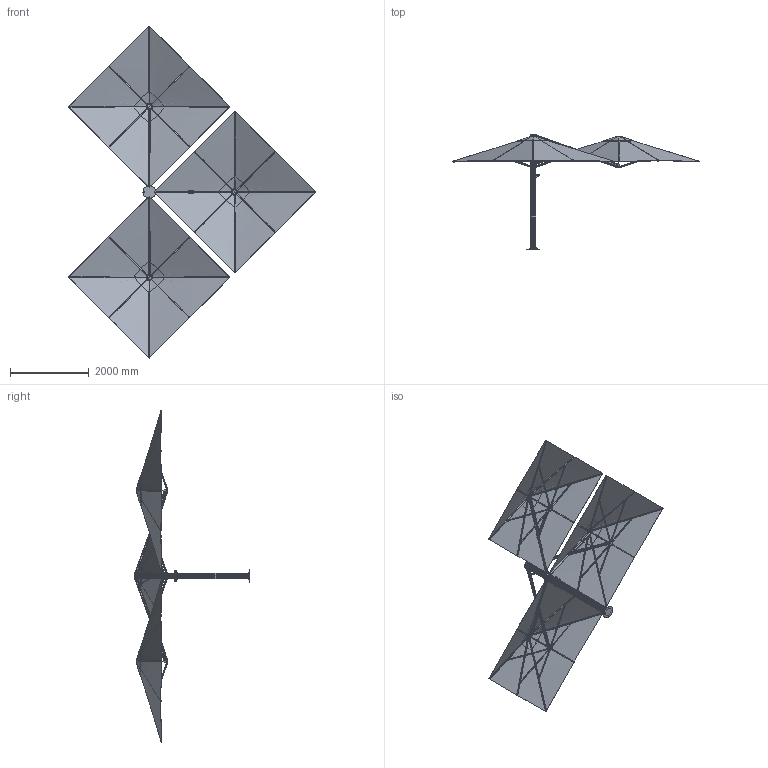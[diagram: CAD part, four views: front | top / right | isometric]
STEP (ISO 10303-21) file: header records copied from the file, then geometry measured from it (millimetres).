
FILE_DESCRIPTION (( 'STEP AP203' ), '1' );
FILE_NAME ('Unity 3M Square Trio.STEP', '2020-06-18T23:22:56', ( '' ), ( '' ), 'SwSTEP 2.0', 'SolidWorks 2017', '' );
FILE_SCHEMA (( 'CONFIG_CONTROL_DESIGN' ));
Length unit declared in the file: millimetre
Products named in the file (51): SMP_UM - 110080; Unity 3M Square Trio; SMP_UM - 110066; SMP_UM - 110112_ALL HOLES; SMP_UM - 110126 (2); SMP_UM - 110187b; SMP_UM - 110070; SMP_UM - 110093; SMP_UM - 110089; SMP_UM - 110204; socket button head cap screw_am_B18.3.4M - 5 x 0.8 x 20 SBHCS --N; SMP_UM - 110110; SMP_UM - 110075; SMP_UM - 110169; SMP_UM - 110168; SMP_UM - 110189; SMP_UM - 110117; SMP_UM - 110094; SMP_UM - 010020_Canopy Only - Open; SMP_UM - 110098; SMP_UM - 110102_Stretched; SMP_UM - 110063; SMP_UM - 110123; SMP_UM - 110187; SMP_UM - 110064; SMP_UM - 010263_3M SQR; SMP_UM - 110172; SMP_UM - 110065; socket button head cap screw_am_B18.3.4M - 5 x 0.8 x 16 SBHCS --N; flat washer regular_am_B18.22M - Plain washer, 6 mm, regular; UM - 210036; SMP_UM - 110079; SMP_UM - 110069; SMP_UM - 110131; SMP_UM - 110222; SMP_UM - 110084; SMP_UM - 110096_PD; SMP_Um - 110192; SMP_UM - 110170; SMP_UM - 210019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
Assembly tree (76 placements, depth 4):
  Unity 3M Square Trio
    SMP_UM - 110116
      SMP_UM - 110112_ALL HOLES
    SMP_UM - 110123
      SMP_UM - 110313_Default<As Machined>
    SMP_UM - 110222
    SMP_UM - 110126 (2)
    SMP_UM - 010020_Canopy Only - Open  x3
      SMP_UM - 110169
        SMP_UM - 110186
        SMP_UM - 110080  x2
      SMP_UM - 110170
        SMP_UM - 110187b
        SMP_UM - 110187
        SMP_UM - 110084
        socket button head cap screw_am_B18.3.4M - 5 x 0.8 x 16 SBHCS --N
        UM - 210036
        SMP_UM - 110085  x2
      SMP_UM - 110064
        SMP_UM - 110092
      SMP_UM - 110063
        SMP_UM - 110092
        SMP_UM - 110093
        SMP_UM - 110094
        SMP_UM - 110110
      SMP_UM - 110171
        SMP_UM - 110189
        SMP_UM - 110089
        SMP_UM - 110088
        flat washer regular_am_B18.22M - Plain washer, 6 mm, regular
        socket button head cap screw_am_B18.3.4M - 5 x 0.8 x 20 SBHCS --N
        SMP_UM - 110131
      SMP_UM - 110204
        SMP_UM - 110190
        SMP_UM - 110089  x2
      SMP_UM - 110066
        SMP_UM - 110098
        SMP_UM - 110075
        SMP_UM - 110096_PD
        SMP_UM - 110102_Stretched
      SMP_UM - 210043 - Gastec Spring_Extended
      SMP_UM - 110205
        SMP_UM - 110191
        SMP_UM - 110089
        SMP_UM - 210019
        SMP_UM - 110088
        flat washer regular_am_B18.22M - Plain washer, 6 mm, regular
        socket button head cap screw_am_B18.3.4M - 5 x 0.8 x 20 SBHCS --N
        SMP_UM - 110131
      SMP_UM - 110172
        SMP_Um - 110192
        SMP_UM - 110089  x2
      SMP_UM - 110168
        SMP_UM - 110075
        SMP_UM - 110079
      SMP_UM - 010263_3M SQR
    SMP_UM - 110117
    SMP_UM - 110065  x2
      SMP_UM - 110070
      SMP_UM - 110069
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Bounding box: 6248.35 x 2932.5 x 8412.11 mm (x, y, z)
Volume: 109636894.5 mm3; surface area: 68277018 mm2
Topology: 282 solids, 288 shells, 5459 faces, 13245 edges, 8379 vertices
Faces by surface type: plane 1755, cylinder 1626, bspline 971, cone 790, torus 244, sphere 73
Entity records: 74497 total; most frequent: CARTESIAN_POINT 44898, ORIENTED_EDGE 5258, DIRECTION 4463, EDGE_CURVE 2629, AXIS2_PLACEMENT_3D 1763, VERTEX_POINT 1636, EDGE_LOOP 1123, ADVANCED_FACE 1082
